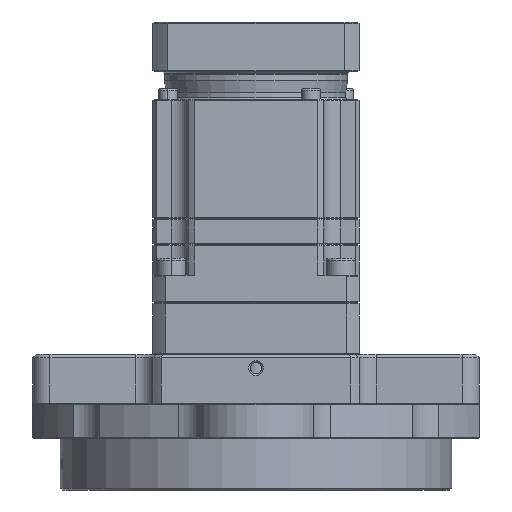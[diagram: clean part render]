
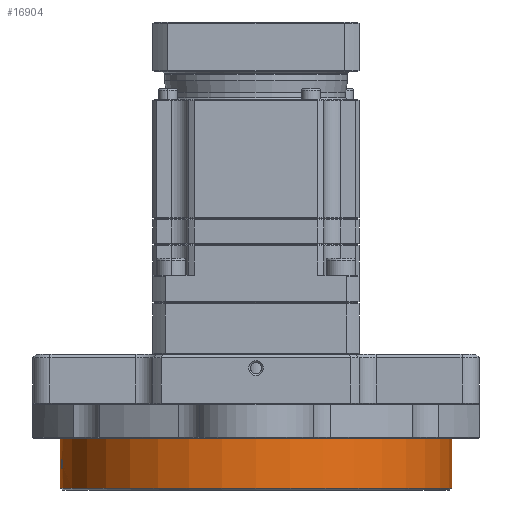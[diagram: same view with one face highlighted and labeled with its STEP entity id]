
A CAD part, front view. The second image highlights one B-rep face of the part: STEP entity #16904.
In plain terms, the highlighted cylindrical face has radius 57 mm (diameter 114 mm), a partial arc.
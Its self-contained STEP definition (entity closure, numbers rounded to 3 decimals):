
#810 = VECTOR ( 'NONE', #1972, 1000. ) ;
#822 = LINE ( 'NONE', #1999, #810 ) ;
#856 = LINE ( 'NONE', #2215, #859 ) ;
#859 = VECTOR ( 'NONE', #2213, 1000. ) ;
#1972 = DIRECTION ( 'NONE',  ( 0., 0., -1. ) ) ;
#1999 = CARTESIAN_POINT ( 'NONE',  ( -57., 0., -39.5 ) ) ;
#2213 = DIRECTION ( 'NONE',  ( 0., 0., -1. ) ) ;
#2215 = CARTESIAN_POINT ( 'NONE',  ( 57., 0., -39.5 ) ) ;
#5163 = EDGE_LOOP ( 'NONE', ( #23959, #23975, #23908, #23956 ) ) ;
#5205 = EDGE_LOOP ( 'NONE', ( #23860, #23879 ) ) ;
#5741 = B_SPLINE_CURVE_WITH_KNOTS ( 'NONE', 3,
 ( #14269, #14286, #14288, #14270, #14274, #14282, #14302, #14299, #14326, #14305, #14334, #14322, #14296, #14310 ),
 .UNSPECIFIED., .F., .F.,
 ( 4, 2, 2, 2, 2, 2, 4 ),
 ( 0., 0.125, 0.25, 0.5, 0.625, 0.75, 1. ),
 .UNSPECIFIED. ) ;
#5748 = B_SPLINE_CURVE_WITH_KNOTS ( 'NONE', 3,
 ( #14383, #14338, #14339, #14355, #14365, #14351, #14364, #14345, #14357, #14342, #14370, #14363, #14353, #14360 ),
 .UNSPECIFIED., .F., .F.,
 ( 4, 2, 2, 2, 2, 2, 4 ),
 ( 0., 0.125, 0.25, 0.5, 0.625, 0.75, 1. ),
 .UNSPECIFIED. ) ;
#5943 = EDGE_CURVE ( 'NONE', #7367, #7308, #822, .T. ) ;
#6004 = EDGE_CURVE ( 'NONE', #7394, #7349, #856, .T. ) ;
#7308 = VERTEX_POINT ( 'NONE', #21145 ) ;
#7349 = VERTEX_POINT ( 'NONE', #21227 ) ;
#7367 = VERTEX_POINT ( 'NONE', #21207 ) ;
#7376 = VERTEX_POINT ( 'NONE', #21244 ) ;
#7394 = VERTEX_POINT ( 'NONE', #21248 ) ;
#7418 = VERTEX_POINT ( 'NONE', #21316 ) ;
#8256 = AXIS2_PLACEMENT_3D ( 'NONE', #22678, #22681, #22682 ) ;
#8712 = AXIS2_PLACEMENT_3D ( 'NONE', #14386, #14390, #14417 ) ;
#9106 = AXIS2_PLACEMENT_3D ( 'NONE', #16491, #16486, #16507 ) ;
#14269 = CARTESIAN_POINT ( 'NONE',  ( -56.569, -7., -33.345 ) ) ;
#14270 = CARTESIAN_POINT ( 'NONE',  ( -56.646, -6.341, -33.187 ) ) ;
#14274 = CARTESIAN_POINT ( 'NONE',  ( -56.663, -6.194, -33.085 ) ) ;
#14282 = CARTESIAN_POINT ( 'NONE',  ( -56.706, -5.791, -32.679 ) ) ;
#14286 = CARTESIAN_POINT ( 'NONE',  ( -56.591, -6.822, -33.349 ) ) ;
#14288 = CARTESIAN_POINT ( 'NONE',  ( -56.61, -6.654, -33.319 ) ) ;
#14296 = CARTESIAN_POINT ( 'NONE',  ( -56.613, -6.642, -30.647 ) ) ;
#14299 = CARTESIAN_POINT ( 'NONE',  ( -56.719, -5.657, -31.82 ) ) ;
#14302 = CARTESIAN_POINT ( 'NONE',  ( -56.719, -5.657, -32.362 ) ) ;
#14305 = CARTESIAN_POINT ( 'NONE',  ( -56.702, -5.824, -31.335 ) ) ;
#14310 = CARTESIAN_POINT ( 'NONE',  ( -56.569, -7., -30.655 ) ) ;
#14322 = CARTESIAN_POINT ( 'NONE',  ( -56.648, -6.329, -30.779 ) ) ;
#14326 = CARTESIAN_POINT ( 'NONE',  ( -56.715, -5.69, -31.651 ) ) ;
#14334 = CARTESIAN_POINT ( 'NONE',  ( -56.692, -5.924, -31.189 ) ) ;
#14338 = CARTESIAN_POINT ( 'NONE',  ( -56.546, -7.178, -30.651 ) ) ;
#14339 = CARTESIAN_POINT ( 'NONE',  ( -56.525, -7.345, -30.681 ) ) ;
#14342 = CARTESIAN_POINT ( 'NONE',  ( -56.411, -8.173, -32.665 ) ) ;
#14345 = CARTESIAN_POINT ( 'NONE',  ( -56.387, -8.339, -32.18 ) ) ;
#14351 = CARTESIAN_POINT ( 'NONE',  ( -56.407, -8.206, -31.321 ) ) ;
#14353 = CARTESIAN_POINT ( 'NONE',  ( -56.524, -7.358, -33.353 ) ) ;
#14355 = CARTESIAN_POINT ( 'NONE',  ( -56.483, -7.658, -30.813 ) ) ;
#14357 = CARTESIAN_POINT ( 'NONE',  ( -56.392, -8.306, -32.349 ) ) ;
#14360 = CARTESIAN_POINT ( 'NONE',  ( -56.569, -7., -33.345 ) ) ;
#14363 = CARTESIAN_POINT ( 'NONE',  ( -56.482, -7.671, -33.221 ) ) ;
#14364 = CARTESIAN_POINT ( 'NONE',  ( -56.387, -8.339, -31.638 ) ) ;
#14365 = CARTESIAN_POINT ( 'NONE',  ( -56.463, -7.805, -30.915 ) ) ;
#14370 = CARTESIAN_POINT ( 'NONE',  ( -56.425, -8.074, -32.811 ) ) ;
#14383 = CARTESIAN_POINT ( 'NONE',  ( -56.569, -7., -30.655 ) ) ;
#14386 = CARTESIAN_POINT ( 'NONE',  ( 0., 0., -39. ) ) ;
#14390 = DIRECTION ( 'NONE',  ( 0., 0., -1. ) ) ;
#14417 = DIRECTION ( 'NONE',  ( -1., 0., 0. ) ) ;
#15116 = CIRCLE ( 'NONE', #8712, 57. ) ;
#15761 = CIRCLE ( 'NONE', #9106, 57. ) ;
#16486 = DIRECTION ( 'NONE',  ( 0., 0., -1. ) ) ;
#16491 = CARTESIAN_POINT ( 'NONE',  ( 0., 0., -18.5 ) ) ;
#16507 = DIRECTION ( 'NONE',  ( -1., 0., 0. ) ) ;
#16904 = ADVANCED_FACE ( 'NONE', ( #19893, #19886 ), #19892, .T. ) ;
#18780 = EDGE_CURVE ( 'NONE', #7418, #7376, #5741, .T. ) ;
#18802 = EDGE_CURVE ( 'NONE', #7376, #7418, #5748, .T. ) ;
#18826 = EDGE_CURVE ( 'NONE', #7349, #7308, #15116, .T. ) ;
#19886 = FACE_BOUND ( 'NONE', #5205, .T. ) ;
#19892 = CYLINDRICAL_SURFACE ( 'NONE', #8256, 57. ) ;
#19893 = FACE_OUTER_BOUND ( 'NONE', #5163, .T. ) ;
#21145 = CARTESIAN_POINT ( 'NONE',  ( -57., 0., -39. ) ) ;
#21207 = CARTESIAN_POINT ( 'NONE',  ( -57., 0., -18.5 ) ) ;
#21227 = CARTESIAN_POINT ( 'NONE',  ( 57., 0., -39. ) ) ;
#21244 = CARTESIAN_POINT ( 'NONE',  ( -56.569, -7., -30.655 ) ) ;
#21248 = CARTESIAN_POINT ( 'NONE',  ( 57., 0., -18.5 ) ) ;
#21316 = CARTESIAN_POINT ( 'NONE',  ( -56.569, -7., -33.345 ) ) ;
#22678 = CARTESIAN_POINT ( 'NONE',  ( 0., 0., -39.5 ) ) ;
#22681 = DIRECTION ( 'NONE',  ( 0., 0., -1. ) ) ;
#22682 = DIRECTION ( 'NONE',  ( -1., 0., 0. ) ) ;
#23860 = ORIENTED_EDGE ( 'NONE', *, *, #18802, .T. ) ;
#23879 = ORIENTED_EDGE ( 'NONE', *, *, #18780, .T. ) ;
#23908 = ORIENTED_EDGE ( 'NONE', *, *, #5943, .T. ) ;
#23956 = ORIENTED_EDGE ( 'NONE', *, *, #18826, .F. ) ;
#23959 = ORIENTED_EDGE ( 'NONE', *, *, #6004, .F. ) ;
#23975 = ORIENTED_EDGE ( 'NONE', *, *, #28363, .T. ) ;
#28363 = EDGE_CURVE ( 'NONE', #7394, #7367, #15761, .T. ) ;
